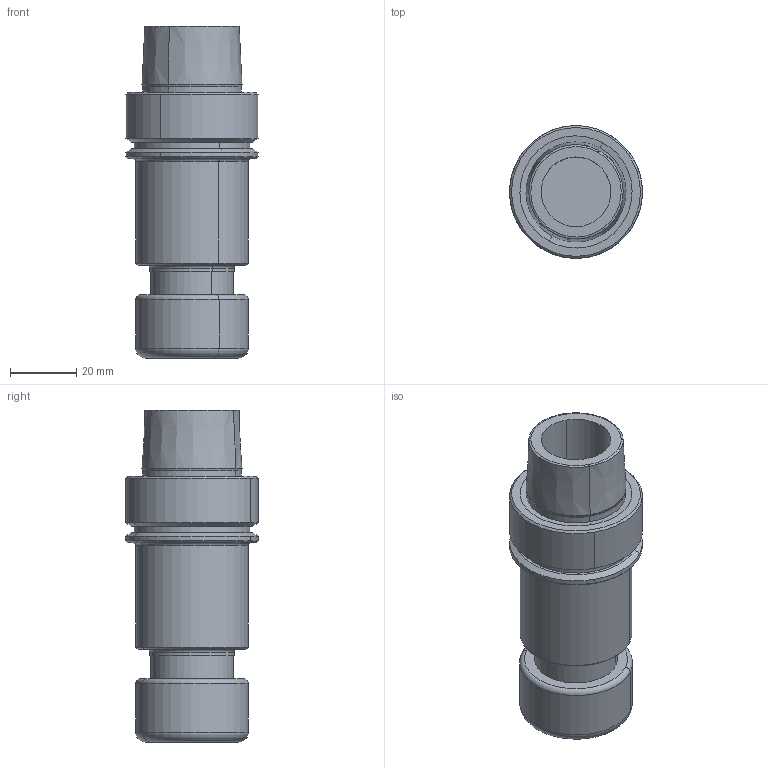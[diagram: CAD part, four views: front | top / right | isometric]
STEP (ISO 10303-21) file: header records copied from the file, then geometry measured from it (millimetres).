
FILE_DESCRIPTION(('CATIA V5 STEP','CAx-IF Rec.Pracs.--- Model Styling and Organization---1.2---2011-12-15'),'2;1');
FILE_NAME('\\nas01\drv1\utils\eitdev\rte\eit\transmagicconvert\db\out\635934507585813351\4503353-D-B.stp','2016-03-13T05:26:12+00:00',('none'),('none'),'CATIA Version 5 Release 21 SP 5 (IN-10)','CATIA V5 STEP AP214','none');
FILE_SCHEMA(('AUTOMOTIVE_DESIGN { 1 0 10303 214 1 1 1 1 }'));
Length unit declared in the file: millimetre
Products named in the file (1): HSK E 40 ER20X 80
Bounding box: 39.99 x 40 x 100 mm (x, y, z)
Volume: 68440.2 mm3; surface area: 17873.4 mm2
Topology: 1 solids, 1 shells, 68 faces, 142 edges, 83 vertices
Faces by surface type: cylinder 24, cone 20, torus 14, plane 10
Entity records: 1602 total; most frequent: ORIENTED_EDGE 280, CARTESIAN_POINT 265, DIRECTION 222, EDGE_CURVE 140, AXIS2_PLACEMENT_3D 138, CIRCLE 96, VERTEX_POINT 83, EDGE_LOOP 77
